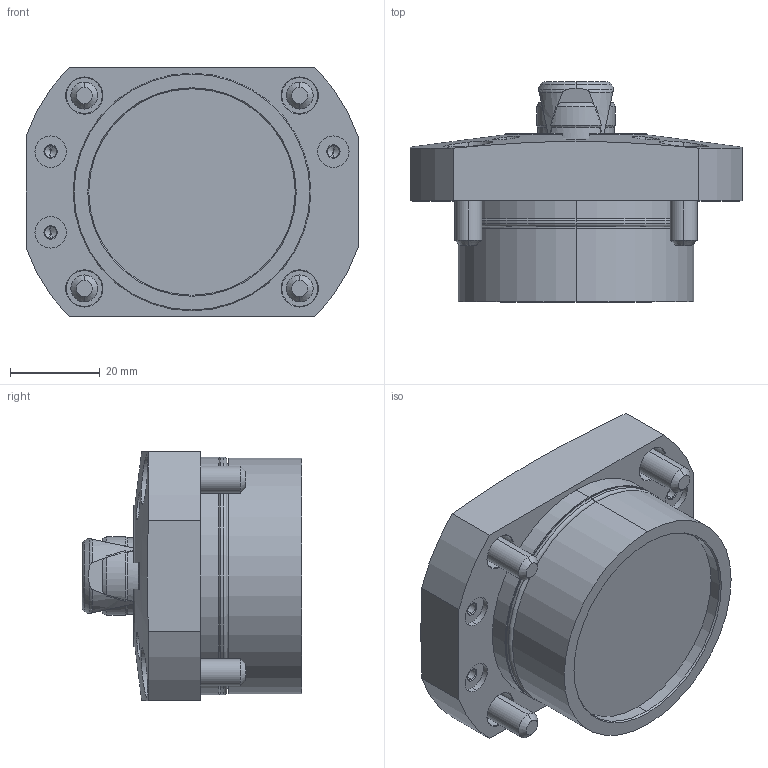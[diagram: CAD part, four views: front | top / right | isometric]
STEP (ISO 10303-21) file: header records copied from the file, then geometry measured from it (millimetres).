
FILE_DESCRIPTION (( 'STEP AP203' ), '1' );
FILE_NAME ('SFH3180_N.STEP', '2010-11-03T23:39:28', ( ' ' ), ( ' ' ), 'SwSTEP 2.0', 'SolidWorks 2010', '' );
FILE_SCHEMA (( 'CONFIG_CONTROL_DESIGN' ));
Length unit declared in the file: millimetre
Products named in the file (7): 6妏寠晅无倌_M3_10; SFH3180-N_套菁轤礁诎蔬晅; SFH3_钾堇轤O剌皋晅; 冇18_郫霓; SFH3180_N; φ18_ｽﾘｰﾌﾞ-N; 6妏寠晅无倌_M6_16
Assembly tree (14 placements, depth 2):
  SFH3180_N
    6妏寠晅无倌_M3_10  x6
    6妏寠晅无倌_M6_16  x4
    SFH3_钾堇轤O剌皋晅
    SFH3180-N_套菁轤礁诎蔬晅
    φ18_ｽﾘｰﾌﾞ-N
    冇18_郫霓
Bounding box: 74 x 49 x 55.5 mm (x, y, z)
Volume: 97301.7 mm3; surface area: 30362.5 mm2
Topology: 18 solids, 18 shells, 552 faces, 1113 edges, 608 vertices
Faces by surface type: plane 223, cone 182, cylinder 128, torus 19
Entity records: 10159 total; most frequent: CARTESIAN_POINT 2468, DIRECTION 1494, ORIENTED_EDGE 1338, EDGE_CURVE 669, AXIS2_PLACEMENT_3D 628, VERTEX_POINT 408, EDGE_LOOP 349, CIRCLE 307
